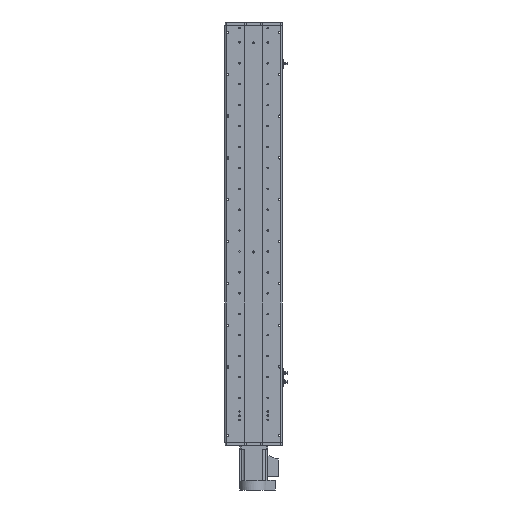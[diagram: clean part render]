
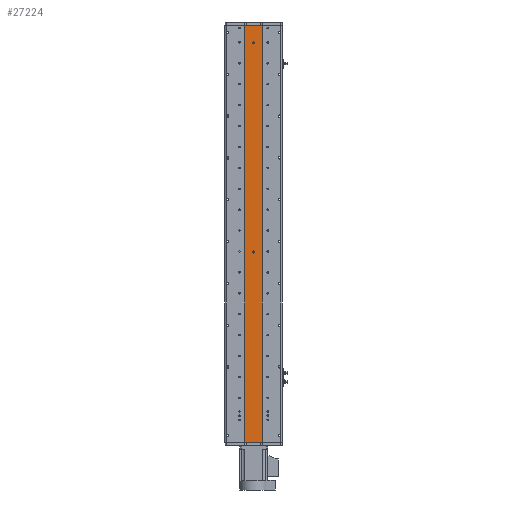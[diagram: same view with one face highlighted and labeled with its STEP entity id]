
A CAD part, front view. The second image highlights one B-rep face of the part: STEP entity #27224.
In plain terms, the highlighted planar face has unit normal (0, -1, 0).
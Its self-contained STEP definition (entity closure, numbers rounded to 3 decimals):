
#473 = DIRECTION ( 'NONE',  ( 0., 0., -1. ) ) ;
#1057 = EDGE_CURVE ( 'NONE', #14195, #40160, #8744, .T. ) ;
#1257 = LINE ( 'NONE', #36069, #16905 ) ;
#3043 = CARTESIAN_POINT ( 'NONE',  ( 0., 1., -49. ) ) ;
#3432 = VECTOR ( 'NONE', #473, 1000. ) ;
#3728 = EDGE_CURVE ( 'NONE', #10336, #14195, #17778, .T. ) ;
#4220 = ORIENTED_EDGE ( 'NONE', *, *, #1057, .T. ) ;
#5362 = FACE_OUTER_BOUND ( 'NONE', #6898, .T. ) ;
#5648 = CARTESIAN_POINT ( 'NONE',  ( 0., 1., -55. ) ) ;
#6340 = CIRCLE ( 'NONE', #11627, 3. ) ;
#6871 = CARTESIAN_POINT ( 'NONE',  ( -25., 1., 598. ) ) ;
#6898 = EDGE_LOOP ( 'NONE', ( #4220, #14632, #29038, #35508 ) ) ;
#7416 = EDGE_LOOP ( 'NONE', ( #25973, #28506 ) ) ;
#8744 = LINE ( 'NONE', #37115, #21496 ) ;
#8895 = CARTESIAN_POINT ( 'NONE',  ( -25., 1., -598. ) ) ;
#10202 = DIRECTION ( 'NONE',  ( 0., 1., 0. ) ) ;
#10336 = VERTEX_POINT ( 'NONE', #6871 ) ;
#11627 = AXIS2_PLACEMENT_3D ( 'NONE', #32343, #13590, #35560 ) ;
#11865 = CARTESIAN_POINT ( 'NONE',  ( 0., 1., 551. ) ) ;
#12485 = CIRCLE ( 'NONE', #15161, 3. ) ;
#12867 = DIRECTION ( 'NONE',  ( 0., -1., 0. ) ) ;
#12985 = AXIS2_PLACEMENT_3D ( 'NONE', #31635, #12867, #34816 ) ;
#13590 = DIRECTION ( 'NONE',  ( 0., -1., 0. ) ) ;
#13674 = DIRECTION ( 'NONE',  ( 0., 0., -1. ) ) ;
#14195 = VERTEX_POINT ( 'NONE', #8895 ) ;
#14334 = VERTEX_POINT ( 'NONE', #3043 ) ;
#14632 = ORIENTED_EDGE ( 'NONE', *, *, #18418, .F. ) ;
#14848 = DIRECTION ( 'NONE',  ( 0., -1., 0. ) ) ;
#15161 = AXIS2_PLACEMENT_3D ( 'NONE', #33639, #14848, #36808 ) ;
#15417 = EDGE_CURVE ( 'NONE', #20655, #35228, #25775, .T. ) ;
#15736 = ORIENTED_EDGE ( 'NONE', *, *, #16244, .F. ) ;
#16244 = EDGE_CURVE ( 'NONE', #14334, #37760, #33046, .T. ) ;
#16409 = CARTESIAN_POINT ( 'NONE',  ( 25., 1., 598. ) ) ;
#16769 = VECTOR ( 'NONE', #13674, 1000. ) ;
#16829 = DIRECTION ( 'NONE',  ( 0., -1., 0. ) ) ;
#16905 = VECTOR ( 'NONE', #20283, 1000. ) ;
#17778 = LINE ( 'NONE', #22974, #16769 ) ;
#18418 = EDGE_CURVE ( 'NONE', #37709, #40160, #28415, .T. ) ;
#19541 = PLANE ( 'NONE',  #22901 ) ;
#20083 = FACE_BOUND ( 'NONE', #7416, .T. ) ;
#20140 = CARTESIAN_POINT ( 'NONE',  ( 0., 1., 545. ) ) ;
#20283 = DIRECTION ( 'NONE',  ( 1., 0., 0. ) ) ;
#20655 = VERTEX_POINT ( 'NONE', #20140 ) ;
#20984 = CARTESIAN_POINT ( 'NONE',  ( 25., 1., 598. ) ) ;
#21047 = FACE_BOUND ( 'NONE', #34677, .T. ) ;
#21496 = VECTOR ( 'NONE', #36971, 1000. ) ;
#22901 = AXIS2_PLACEMENT_3D ( 'NONE', #16409, #10202, #32153 ) ;
#22974 = CARTESIAN_POINT ( 'NONE',  ( -25., 1., 598. ) ) ;
#25456 = CARTESIAN_POINT ( 'NONE',  ( 25., 1., -598. ) ) ;
#25775 = CIRCLE ( 'NONE', #32911, 3. ) ;
#25973 = ORIENTED_EDGE ( 'NONE', *, *, #15417, .F. ) ;
#27224 = ADVANCED_FACE ( 'NONE', ( #20083, #21047, #5362 ), #19541, .F. ) ;
#28415 = LINE ( 'NONE', #31689, #3432 ) ;
#28506 = ORIENTED_EDGE ( 'NONE', *, *, #35967, .F. ) ;
#29038 = ORIENTED_EDGE ( 'NONE', *, *, #38180, .F. ) ;
#31635 = CARTESIAN_POINT ( 'NONE',  ( 0., 1., -52. ) ) ;
#31689 = CARTESIAN_POINT ( 'NONE',  ( 25., 1., 598. ) ) ;
#32153 = DIRECTION ( 'NONE',  ( 0., 0., 1. ) ) ;
#32343 = CARTESIAN_POINT ( 'NONE',  ( 0., 1., 548. ) ) ;
#32911 = AXIS2_PLACEMENT_3D ( 'NONE', #35647, #16829, #38771 ) ;
#33046 = CIRCLE ( 'NONE', #12985, 3. ) ;
#33639 = CARTESIAN_POINT ( 'NONE',  ( 0., 1., -52. ) ) ;
#34677 = EDGE_LOOP ( 'NONE', ( #38988, #15736 ) ) ;
#34816 = DIRECTION ( 'NONE',  ( 0., 0., -1. ) ) ;
#35228 = VERTEX_POINT ( 'NONE', #11865 ) ;
#35508 = ORIENTED_EDGE ( 'NONE', *, *, #3728, .T. ) ;
#35560 = DIRECTION ( 'NONE',  ( 0., 0., -1. ) ) ;
#35647 = CARTESIAN_POINT ( 'NONE',  ( 0., 1., 548. ) ) ;
#35967 = EDGE_CURVE ( 'NONE', #35228, #20655, #6340, .T. ) ;
#36069 = CARTESIAN_POINT ( 'NONE',  ( 25., 1., 598. ) ) ;
#36808 = DIRECTION ( 'NONE',  ( 0., 0., -1. ) ) ;
#36971 = DIRECTION ( 'NONE',  ( 1., 0., 0. ) ) ;
#37115 = CARTESIAN_POINT ( 'NONE',  ( 25., 1., -598. ) ) ;
#37709 = VERTEX_POINT ( 'NONE', #20984 ) ;
#37760 = VERTEX_POINT ( 'NONE', #5648 ) ;
#38180 = EDGE_CURVE ( 'NONE', #10336, #37709, #1257, .T. ) ;
#38771 = DIRECTION ( 'NONE',  ( 0., 0., -1. ) ) ;
#38988 = ORIENTED_EDGE ( 'NONE', *, *, #39377, .F. ) ;
#39377 = EDGE_CURVE ( 'NONE', #37760, #14334, #12485, .T. ) ;
#40160 = VERTEX_POINT ( 'NONE', #25456 ) ;
